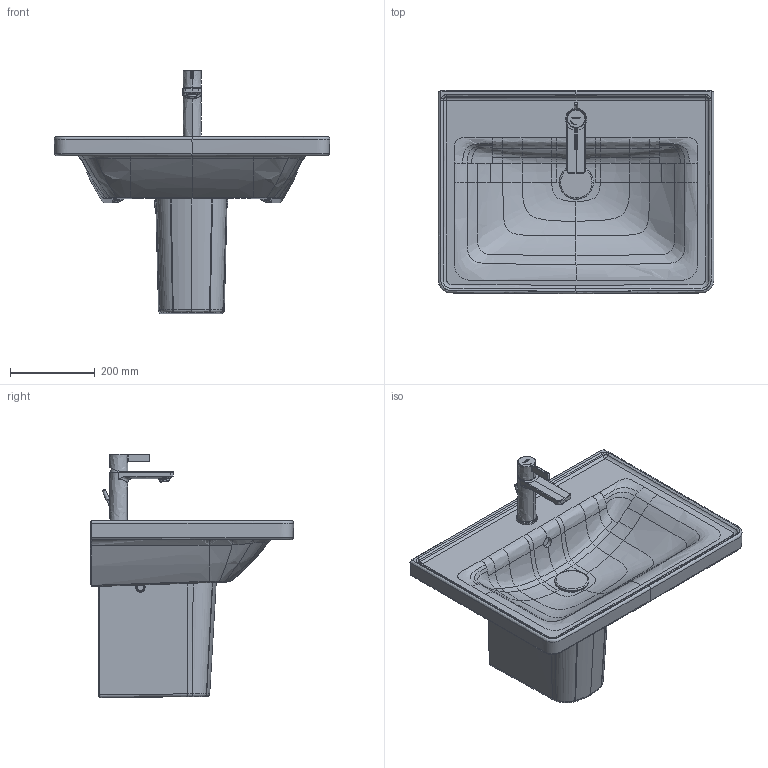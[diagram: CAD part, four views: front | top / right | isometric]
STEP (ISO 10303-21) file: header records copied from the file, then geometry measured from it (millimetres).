
FILE_DESCRIPTION(/* description */ (''),/* implementation_level */ '2;1');
FILE_NAME(/* name */ '236765_085843',/* time_stamp */ '2021-06-21T10:22:26+02:00',/* author */ (''),/* organization */ (''),/* preprocessor_version */ 'ST-DEVELOPER v15',/* originating_system */ '',/* authorisation */ '');
FILE_SCHEMA (('AUTOMOTIVE_DESIGN'));
Length unit declared in the file: millimetre
Products named in the file (1): Document
Bounding box: 650.17 x 480.08 x 574.79 mm (x, y, z)
Volume: 16847778.9 mm3; surface area: 1507180.9 mm2
Topology: 7 solids, 12 shells, 672 faces, 1615 edges, 984 vertices
Faces by surface type: bspline 521, plane 151
Entity records: 91749 total; most frequent: CARTESIAN_POINT 81658, ORIENTED_EDGE 3204, EDGE_CURVE 1609, B_SPLINE_CURVE_WITH_KNOTS 1316, VERTEX_POINT 984, EDGE_LOOP 713, ADVANCED_FACE 672, FACE_OUTER_BOUND 672
